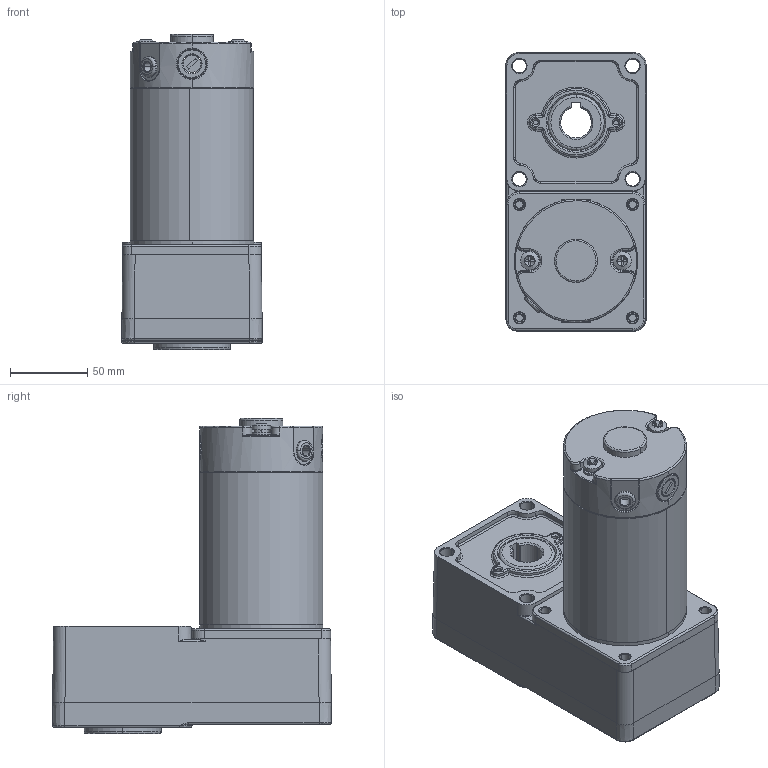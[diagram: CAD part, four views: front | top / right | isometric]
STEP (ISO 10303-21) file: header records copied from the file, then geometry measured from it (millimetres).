
FILE_DESCRIPTION (( 'STEP AP214' ), '1' );
FILE_NAME ('90饜5GUL倰喘謫眊-80儂褲.STEP', '2021-07-24T01:47:29', ( '' ), ( '' ), 'SwSTEP 2.0', 'SolidWorks 2021', '' );
FILE_SCHEMA (( 'AUTOMOTIVE_DESIGN' ));
Length unit declared in the file: millimetre
Products named in the file (8): JIKE-99; HOUGAI-80-1_2; LUDING_2; 90饜5GUL倰喘謫眊-80儂褲; PENGDIAN_2; TANDIAN_2; 90L倰喘謫眊; QIGAI_1
Assembly tree (10 placements, depth 2):
  90饜5GUL倰喘謫眊-80儂褲
    JIKE-99
    QIGAI_1
    LUDING_2  x2
    TANDIAN_2  x2
    PENGDIAN_2  x2
    HOUGAI-80-1_2
    90L倰喘謫眊
Bounding box: 90.99 x 180.99 x 204.5 mm (x, y, z)
Volume: 876466.8 mm3; surface area: 242389.9 mm2
Topology: 16 solids, 16 shells, 1377 faces, 3242 edges, 1890 vertices
Faces by surface type: bspline 535, cylinder 351, plane 247, cone 203, torus 41
Entity records: 72799 total; most frequent: CARTESIAN_POINT 47853, ORIENTED_EDGE 6108, DIRECTION 3698, EDGE_CURVE 3054, VERTEX_POINT 1803, AXIS2_PLACEMENT_3D 1466, EDGE_LOOP 1387, B_SPLINE_CURVE_WITH_KNOTS 1324
